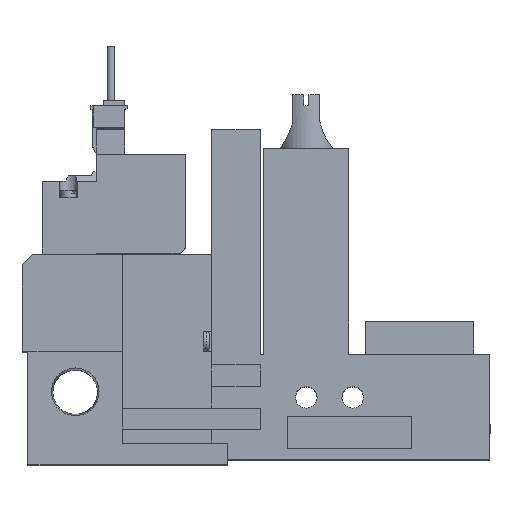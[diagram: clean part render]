
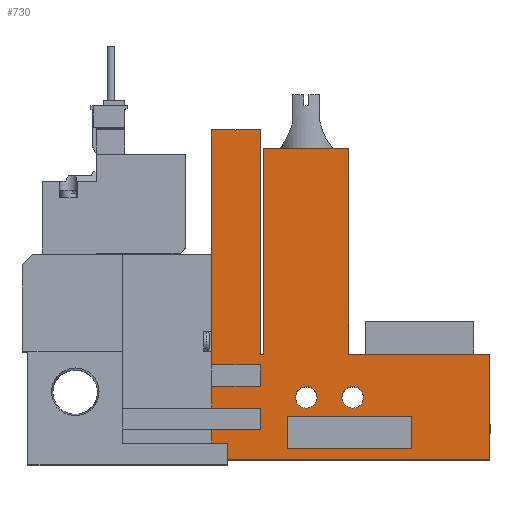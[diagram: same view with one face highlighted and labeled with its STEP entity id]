
A CAD part, top view. The second image highlights one B-rep face of the part: STEP entity #730.
In plain terms, the highlighted planar face has unit normal (0, 0, 1).
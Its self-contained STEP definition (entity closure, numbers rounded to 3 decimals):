
#730=ADVANCED_FACE('',(#1459,#1460,#1461,#1462),#1463,.T.);
#1459=FACE_OUTER_BOUND('',#2365,.T.);
#1460=FACE_BOUND('',#2366,.T.);
#1461=FACE_BOUND('',#2367,.T.);
#1462=FACE_BOUND('',#2368,.T.);
#1463=PLANE('',#2369);
#2365=EDGE_LOOP('',(#5075,#5076,#5077,#5078,#5079,#5080,#5081,#5082,#5083,#5084,#5085,#5086,#5087,#5088,#5089,#5090,#5091,#5092));
#2366=EDGE_LOOP('',(#5093,#5094,#5095,#5096));
#2367=EDGE_LOOP('',(#5097));
#2368=EDGE_LOOP('',(#5098));
#2369=AXIS2_PLACEMENT_3D('',#5099,#5100,#5101);
#5075=ORIENTED_EDGE('',*,*,#6518,.T.);
#5076=ORIENTED_EDGE('',*,*,#6437,.T.);
#5077=ORIENTED_EDGE('',*,*,#6387,.T.);
#5078=ORIENTED_EDGE('',*,*,#6391,.T.);
#5079=ORIENTED_EDGE('',*,*,#6537,.T.);
#5080=ORIENTED_EDGE('',*,*,#6468,.T.);
#5081=ORIENTED_EDGE('',*,*,#6440,.T.);
#5082=ORIENTED_EDGE('',*,*,#6431,.T.);
#5083=ORIENTED_EDGE('',*,*,#6533,.T.);
#5084=ORIENTED_EDGE('',*,*,#6451,.T.);
#5085=ORIENTED_EDGE('',*,*,#6406,.T.);
#5086=ORIENTED_EDGE('',*,*,#6525,.T.);
#5087=ORIENTED_EDGE('',*,*,#6522,.T.);
#5088=ORIENTED_EDGE('',*,*,#6528,.T.);
#5089=ORIENTED_EDGE('',*,*,#6531,.T.);
#5090=ORIENTED_EDGE('',*,*,#6552,.T.);
#5091=ORIENTED_EDGE('',*,*,#6559,.T.);
#5092=ORIENTED_EDGE('',*,*,#6418,.T.);
#5093=ORIENTED_EDGE('',*,*,#6372,.T.);
#5094=ORIENTED_EDGE('',*,*,#6365,.T.);
#5095=ORIENTED_EDGE('',*,*,#6496,.T.);
#5096=ORIENTED_EDGE('',*,*,#6554,.T.);
#5097=ORIENTED_EDGE('',*,*,#6426,.T.);
#5098=ORIENTED_EDGE('',*,*,#6539,.T.);
#5099=CARTESIAN_POINT('',(0.0,0.0,10.0));
#5100=DIRECTION('',(0.0,0.0,1.0));
#5101=DIRECTION('',(1.0,0.0,0.0));
#6365=EDGE_CURVE('',#7743,#7748,#7750,.T.);
#6372=EDGE_CURVE('',#7759,#7743,#7763,.T.);
#6387=EDGE_CURVE('',#7781,#7786,#7788,.T.);
#6391=EDGE_CURVE('',#7786,#7793,#7795,.T.);
#6406=EDGE_CURVE('',#7822,#7820,#7823,.T.);
#6418=EDGE_CURVE('',#7845,#7843,#7846,.T.);
#6426=EDGE_CURVE('',#7859,#7859,#7860,.T.);
#6431=EDGE_CURVE('',#7868,#7866,#7869,.T.);
#6437=EDGE_CURVE('',#7875,#7781,#7879,.T.);
#6440=EDGE_CURVE('',#7880,#7868,#7884,.T.);
#6451=EDGE_CURVE('',#7903,#7822,#7904,.T.);
#6468=EDGE_CURVE('',#7935,#7880,#7936,.T.);
#6496=EDGE_CURVE('',#7748,#7978,#7980,.T.);
#6518=EDGE_CURVE('',#7843,#7875,#8010,.T.);
#6522=EDGE_CURVE('',#8017,#8015,#8018,.T.);
#6525=EDGE_CURVE('',#7820,#8017,#8021,.T.);
#6528=EDGE_CURVE('',#8015,#8024,#8026,.T.);
#6531=EDGE_CURVE('',#8024,#8029,#8031,.T.);
#6533=EDGE_CURVE('',#7866,#7903,#8033,.T.);
#6537=EDGE_CURVE('',#7793,#7935,#8037,.T.);
#6539=EDGE_CURVE('',#8040,#8040,#8041,.T.);
#6552=EDGE_CURVE('',#8029,#8061,#8063,.T.);
#6554=EDGE_CURVE('',#7978,#7759,#8065,.T.);
#6559=EDGE_CURVE('',#8061,#7845,#8071,.T.);
#7743=VERTEX_POINT('',#10000);
#7748=VERTEX_POINT('',#10007);
#7750=LINE('',#10010,#10011);
#7759=VERTEX_POINT('',#10024);
#7763=LINE('',#10030,#10031);
#7781=VERTEX_POINT('',#10058);
#7786=VERTEX_POINT('',#10065);
#7788=LINE('',#10068,#10069);
#7793=VERTEX_POINT('',#10076);
#7795=LINE('',#10079,#10080);
#7820=VERTEX_POINT('',#10117);
#7822=VERTEX_POINT('',#10120);
#7823=LINE('',#10121,#10122);
#7843=VERTEX_POINT('',#10151);
#7845=VERTEX_POINT('',#10154);
#7846=LINE('',#10155,#10156);
#7859=VERTEX_POINT('',#10174);
#7860=CIRCLE('',#10175,2.0);
#7866=VERTEX_POINT('',#10182);
#7868=VERTEX_POINT('',#10185);
#7869=LINE('',#10186,#10187);
#7875=VERTEX_POINT('',#10196);
#7879=LINE('',#10202,#10203);
#7880=VERTEX_POINT('',#10204);
#7884=LINE('',#10210,#10211);
#7903=VERTEX_POINT('',#10240);
#7904=LINE('',#10241,#10242);
#7935=VERTEX_POINT('',#10286);
#7936=LINE('',#10287,#10288);
#7978=VERTEX_POINT('',#10356);
#7980=LINE('',#10359,#10360);
#8010=LINE('',#10411,#10412);
#8015=VERTEX_POINT('',#10419);
#8017=VERTEX_POINT('',#10422);
#8018=LINE('',#10423,#10424);
#8021=LINE('',#10429,#10430);
#8024=VERTEX_POINT('',#10434);
#8026=LINE('',#10437,#10438);
#8029=VERTEX_POINT('',#10442);
#8031=LINE('',#10445,#10446);
#8033=LINE('',#10449,#10450);
#8037=LINE('',#10457,#10458);
#8040=VERTEX_POINT('',#10461);
#8041=CIRCLE('',#10462,2.0);
#8061=VERTEX_POINT('',#10488);
#8063=LINE('',#10491,#10492);
#8065=LINE('',#10495,#10496);
#8071=LINE('',#10505,#10506);
#10000=CARTESIAN_POINT('',(49.1,8.0,10.0));
#10007=CARTESIAN_POINT('',(72.1,8.0,10.0));
#10010=CARTESIAN_POINT('',(0.0,8.0,10.0));
#10011=VECTOR('',#11802,1.0);
#10024=CARTESIAN_POINT('',(49.1,2.0,10.0));
#10030=CARTESIAN_POINT('',(49.1,0.0,10.0));
#10031=VECTOR('',#11809,1.0);
#10058=CARTESIAN_POINT('',(44.1,17.5,10.0));
#10065=CARTESIAN_POINT('',(44.1,13.5,10.0));
#10068=CARTESIAN_POINT('',(44.1,0.0,10.0));
#10069=VECTOR('',#11828,1.0);
#10076=CARTESIAN_POINT('',(35.1,13.5,10.0));
#10079=CARTESIAN_POINT('',(0.0,13.5,10.0));
#10080=VECTOR('',#11832,1.0);
#10117=CARTESIAN_POINT('',(86.6,19.5,10.0));
#10120=CARTESIAN_POINT('',(86.6,0.0,10.0));
#10121=CARTESIAN_POINT('',(86.6,0.0,10.0));
#10122=VECTOR('',#11849,1.0);
#10151=CARTESIAN_POINT('',(35.1,61.0,10.0));
#10154=CARTESIAN_POINT('',(44.1,61.0,10.0));
#10155=CARTESIAN_POINT('',(44.1,61.0,10.0));
#10156=VECTOR('',#11863,1.0);
#10174=CARTESIAN_POINT('',(54.6,11.5,10.0));
#10175=AXIS2_PLACEMENT_3D('',#11875,#11876,#11877);
#10182=CARTESIAN_POINT('',(35.1,5.5,10.0));
#10185=CARTESIAN_POINT('',(44.1,5.5,10.0));
#10186=CARTESIAN_POINT('',(0.0,5.5,10.0));
#10187=VECTOR('',#11883,1.0);
#10196=CARTESIAN_POINT('',(35.1,17.5,10.0));
#10202=CARTESIAN_POINT('',(0.0,17.5,10.0));
#10203=VECTOR('',#11889,1.0);
#10204=CARTESIAN_POINT('',(44.1,9.5,10.0));
#10210=CARTESIAN_POINT('',(44.1,0.0,10.0));
#10211=VECTOR('',#11892,1.0);
#10240=CARTESIAN_POINT('',(35.1,0.0,10.0));
#10241=CARTESIAN_POINT('',(18.6,0.0,10.0));
#10242=VECTOR('',#11903,1.0);
#10286=CARTESIAN_POINT('',(35.1,9.5,10.0));
#10287=CARTESIAN_POINT('',(0.0,9.5,10.0));
#10288=VECTOR('',#11926,1.0);
#10356=CARTESIAN_POINT('',(72.1,2.0,10.0));
#10359=CARTESIAN_POINT('',(72.1,0.0,10.0));
#10360=VECTOR('',#11954,1.0);
#10411=CARTESIAN_POINT('',(35.1,61.0,10.0));
#10412=VECTOR('',#11976,1.0);
#10419=CARTESIAN_POINT('',(60.45,57.5,10.0));
#10422=CARTESIAN_POINT('',(60.45,19.5,10.0));
#10423=CARTESIAN_POINT('',(60.45,19.5,10.0));
#10424=VECTOR('',#11980,1.0);
#10429=CARTESIAN_POINT('',(86.6,19.5,10.0));
#10430=VECTOR('',#11983,1.0);
#10434=CARTESIAN_POINT('',(44.75,57.5,10.0));
#10437=CARTESIAN_POINT('',(60.45,57.5,10.0));
#10438=VECTOR('',#11986,1.0);
#10442=CARTESIAN_POINT('',(44.75,19.5,10.0));
#10445=CARTESIAN_POINT('',(44.75,57.5,10.0));
#10446=VECTOR('',#11989,1.0);
#10449=CARTESIAN_POINT('',(35.1,0.0,10.0));
#10450=VECTOR('',#11991,1.0);
#10457=CARTESIAN_POINT('',(35.1,0.0,10.0));
#10458=VECTOR('',#11995,1.0);
#10461=CARTESIAN_POINT('',(63.2,11.5,10.0));
#10462=AXIS2_PLACEMENT_3D('',#11999,#12000,#12001);
#10488=CARTESIAN_POINT('',(44.1,19.5,10.0));
#10491=CARTESIAN_POINT('',(44.75,19.5,10.0));
#10492=VECTOR('',#12024,1.0);
#10495=CARTESIAN_POINT('',(0.0,2.0,10.0));
#10496=VECTOR('',#12026,1.0);
#10505=CARTESIAN_POINT('',(44.1,19.5,10.0));
#10506=VECTOR('',#12033,1.0);
#11802=DIRECTION('',(1.0,0.0,0.0));
#11809=DIRECTION('',(0.0,1.0,0.0));
#11828=DIRECTION('',(0.0,-1.0,0.0));
#11832=DIRECTION('',(-1.0,0.0,0.0));
#11849=DIRECTION('',(0.0,1.0,0.0));
#11863=DIRECTION('',(-1.0,0.0,0.0));
#11875=CARTESIAN_POINT('',(52.6,11.5,10.0));
#11876=DIRECTION('',(0.0,0.0,-1.0));
#11877=DIRECTION('',(1.0,0.0,0.0));
#11883=DIRECTION('',(-1.0,0.0,0.0));
#11889=DIRECTION('',(1.0,0.0,0.0));
#11892=DIRECTION('',(0.0,-1.0,0.0));
#11903=DIRECTION('',(1.0,0.0,0.0));
#11926=DIRECTION('',(1.0,0.0,0.0));
#11954=DIRECTION('',(0.0,-1.0,0.0));
#11976=DIRECTION('',(0.0,-1.0,0.0));
#11980=DIRECTION('',(0.0,1.0,0.0));
#11983=DIRECTION('',(-1.0,0.0,0.0));
#11986=DIRECTION('',(-1.0,0.0,0.0));
#11989=DIRECTION('',(0.0,-1.0,0.0));
#11991=DIRECTION('',(0.0,-1.0,0.0));
#11995=DIRECTION('',(0.0,-1.0,0.0));
#11999=CARTESIAN_POINT('',(61.2,11.5,10.0));
#12000=DIRECTION('',(0.0,0.0,-1.0));
#12001=DIRECTION('',(1.0,0.0,0.0));
#12024=DIRECTION('',(-1.0,0.0,0.0));
#12026=DIRECTION('',(-1.0,0.0,0.0));
#12033=DIRECTION('',(0.0,1.0,0.0));
